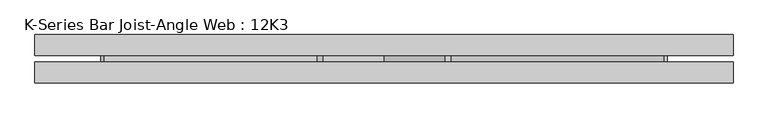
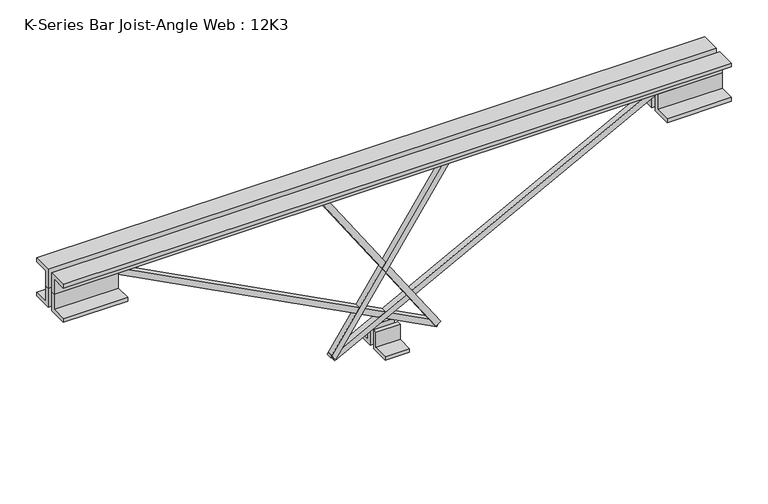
"""IFC4 building model written with IfcOpenShell, lengths in millimetres: beam geometry, K-Series Bar Joist-Angle Web : 12K3."""

from ifc_helpers import new_model, si_unit, frame, origin, place, context, project, spatial, polyline, outline, extrude, source, transform, mapped, element, save


def k_series_bar_joist_angle_web_12k3_20b2fc65(model_context):
    return source(origin(), model_context, "Body", "SweptSolid", [
        extrude(outline(polyline([(4.7625, 152.4), (36.5125, 152.4), (36.5125, 146.05), (11.1125, 146.05), (11.1125, 120.65), (4.7625, 120.65), (4.7625, 152.4)])), frame((-527.05, 0.0, 0.0), z_axis=(1.0, 0.0, 0.0), x_axis=(0.0, 1.0, 0.0)), (0.0, 0.0, 1.0), 1054.1),
        extrude(outline(polyline([(-4.7625, 152.4), (-4.7625, 120.65), (-11.1125, 120.65), (-11.1125, 146.05), (-36.5125, 146.05), (-36.5125, 152.4), (-4.7625, 152.4)])), frame((-527.05, 0.0, 0.0), z_axis=(1.0, 0.0, 0.0), x_axis=(0.0, 1.0, 0.0)), (0.0, 0.0, 1.0), 1054.1),
        extrude(outline(polyline([(-4.7625, 88.9), (-36.5125, 88.9), (-36.5125, 95.25), (-11.1125, 95.25), (-11.1125, 120.65), (-4.7625, 120.65), (-4.7625, 88.9)])), frame((-527.05, 0.0, 0.0), z_axis=(1.0, 0.0, 0.0), x_axis=(0.0, 1.0, 0.0)), (0.0, 0.0, 1.0), 101.6),
        extrude(outline(polyline([(36.5125, 88.9), (4.7625, 88.9), (4.7625, 120.65), (11.1125, 120.65), (11.1125, 95.25), (36.5125, 95.25), (36.5125, 88.9)])), frame((-527.05, 0.0, 0.0), z_axis=(1.0, 0.0, 0.0), x_axis=(0.0, 1.0, 0.0)), (0.0, 0.0, 1.0), 101.6),
        extrude(outline(polyline([(4.7625, 88.9), (4.7625, 120.65), (11.1125, 120.65), (11.1125, 95.25), (36.5125, 95.25), (36.5125, 88.9), (4.7625, 88.9)])), frame((425.45, 0.0, 0.0), z_axis=(1.0, 0.0, 0.0), x_axis=(0.0, 1.0, 0.0)), (0.0, 0.0, 1.0), 101.6),
        extrude(outline(polyline([(-4.7625, 88.9), (-36.5125, 88.9), (-36.5125, 95.25), (-11.1125, 95.25), (-11.1125, 120.65), (-4.7625, 120.65), (-4.7625, 88.9)])), frame((425.45, 0.0, 0.0), z_axis=(1.0, 0.0, 0.0), x_axis=(0.0, 1.0, 0.0)), (0.0, 0.0, 1.0), 101.6),
        extrude(outline(polyline([(4.7625, -152.4), (4.7625, -120.65), (11.1125, -120.65), (11.1125, -146.05), (36.5125, -146.05), (36.5125, -152.4), (4.7625, -152.4)])), frame((-19.05, 0.0, 0.0), z_axis=(1.0, 0.0, 0.0), x_axis=(0.0, 1.0, 0.0)), (0.0, 0.0, 1.0), 38.1),
        extrude(outline(polyline([(-4.7625, -152.4), (-36.5125, -152.4), (-36.5125, -146.05), (-11.1125, -146.05), (-11.1125, -120.65), (-4.7625, -120.65), (-4.7625, -152.4)])), frame((-19.05, 0.0, 0.0), z_axis=(1.0, 0.0, 0.0), x_axis=(0.0, 1.0, 0.0)), (0.0, 0.0, 1.0), 38.1),
        extrude(outline(polyline([(4.7625, 4.7625), (4.7625, -4.7625), (-4.7625, -4.7625), (-4.7625, 4.7625), (4.7625, 4.7625)])), frame((-82.55, 0.0, -146.05), z_axis=(0.5579147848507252, 0.0, 0.8298982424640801), x_axis=(0.0, -1.0, 0.0)), (0.0, 0.0, 1.0), 321.3647003),
        extrude(outline(polyline([(4.7625, 4.7625), (4.7625, -4.7625), (-4.7625, -4.7625), (-4.7625, 4.7625), (4.7625, 4.7625)])), frame((82.55, 0.0, -146.05), z_axis=(-0.5579147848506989, 0.0, 0.8298982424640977), x_axis=(0.0, -1.0, 0.0)), (0.0, 0.0, 1.0), 321.3647003),
        extrude(outline(polyline([(0.0, -9.525), (0.0, 0.0), (573.7533355, 0.0), (573.7533355, -9.525), (0.0, -9.525)])), frame((427.6637714, -4.7625, 116.4332925), z_axis=(-0.46483389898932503, 0.0, 0.8853979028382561), x_axis=(-0.8853979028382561, 0.0, -0.46483389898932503)), (0.0, 0.0, 1.0), 9.525),
        extrude(outline(polyline([(0.0, -9.525), (0.0, 0.0), (573.7533355, 0.0), (573.7533355, -9.525), (0.0, -9.525)])), frame((-427.6637714, 4.7625, 116.4332925), z_axis=(0.46483389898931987, 0.0, 0.8853979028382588), x_axis=(0.8853979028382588, 0.0, -0.46483389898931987)), (0.0, 0.0, 1.0), 9.525),
    ])


if __name__ == "__main__":
    model = new_model("IFC4")
    model_context = context("Model", 3, world=origin())
    ifc_project = project(units=[si_unit("LENGTHUNIT", "METRE", prefix="MILLI")], contexts=[model_context])
    site = spatial("IfcSite", under=ifc_project)
    building = spatial("IfcBuilding", under=site)
    placement = place(None, origin())
    k_series_bar_joist_angle_web_12k3_shape = k_series_bar_joist_angle_web_12k3_20b2fc65(model_context)
    element("IfcBeam", 1, ObjectType="K-Series Bar Joist-Angle Web : 12K3", at=placement, inside=building, context=model_context, shape_type="MappedRepresentation", body=[
        mapped(k_series_bar_joist_angle_web_12k3_shape, transform((0.0, 0.0, 0.0), x_axis=(1.0, 0.0, 0.0), y_axis=(0.0, 1.0, 0.0), z_axis=(0.0, 0.0, 1.0))),
    ])
    save(model, "model.ifc")
